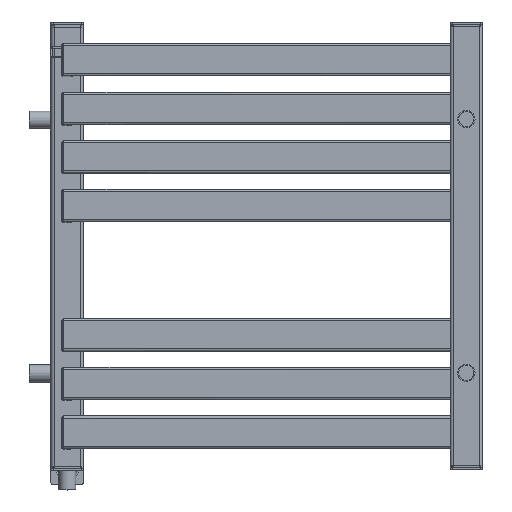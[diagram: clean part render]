
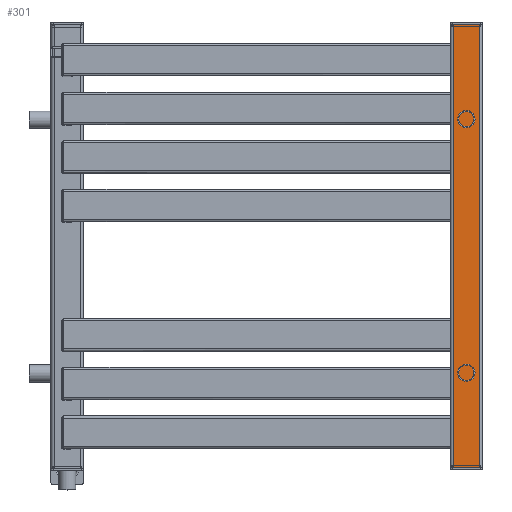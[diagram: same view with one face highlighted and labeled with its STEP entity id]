
A CAD part, top view. The second image highlights one B-rep face of the part: STEP entity #301.
In plain terms, the highlighted planar face has unit normal (0, 0, 1) as drawn and (1, 0, 0) by its records, which use the part's own axes.
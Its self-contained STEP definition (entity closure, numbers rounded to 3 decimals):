
#301 = ADVANCED_FACE( '', ( #659 ), #660, .T. );
#659 = FACE_OUTER_BOUND( '', #1118, .T. );
#660 = PLANE( '', #1119 );
#1118 = EDGE_LOOP( '', ( #1877, #1878, #1879, #1880 ) );
#1119 = AXIS2_PLACEMENT_3D( '', #1881, #1882, #1883 );
#1877 = ORIENTED_EDGE( '', *, *, #2772, .T. );
#1878 = ORIENTED_EDGE( '', *, *, #2834, .T. );
#1879 = ORIENTED_EDGE( '', *, *, #2835, .F. );
#1880 = ORIENTED_EDGE( '', *, *, #2836, .T. );
#1881 = CARTESIAN_POINT( '', ( 15., 411., -15. ) );
#1882 = DIRECTION( '', ( 1., 0., 0. ) );
#1883 = DIRECTION( '', ( 0., 0., -1. ) );
#2772 = EDGE_CURVE( '', #3373, #3371, #3374, .T. );
#2834 = EDGE_CURVE( '', #3371, #3465, #3466, .T. );
#2835 = EDGE_CURVE( '', #3467, #3465, #3468, .T. );
#2836 = EDGE_CURVE( '', #3467, #3373, #3469, .F. );
#3371 = VERTEX_POINT( '', #4167 );
#3373 = VERTEX_POINT( '', #4169 );
#3374 = LINE( '', #4170, #4171 );
#3465 = VERTEX_POINT( '', #4293 );
#3466 = LINE( '', #4294, #4295 );
#3467 = VERTEX_POINT( '', #4296 );
#3468 = LINE( '', #4297, #4298 );
#3469 = LINE( '', #4299, #4300 );
#4167 = CARTESIAN_POINT( '', ( 15., 411., 12. ) );
#4169 = CARTESIAN_POINT( '', ( 15., 411., -12. ) );
#4170 = CARTESIAN_POINT( '', ( 15., 411., -15. ) );
#4171 = VECTOR( '', #4912, 1000. );
#4293 = CARTESIAN_POINT( '', ( 15., 0., 12. ) );
#4294 = CARTESIAN_POINT( '', ( 15., 411., 12. ) );
#4295 = VECTOR( '', #4986, 1000. );
#4296 = CARTESIAN_POINT( '', ( 15., 0., -12. ) );
#4297 = CARTESIAN_POINT( '', ( 15., 0., -15. ) );
#4298 = VECTOR( '', #4987, 1000. );
#4299 = CARTESIAN_POINT( '', ( 15., 411., -12. ) );
#4300 = VECTOR( '', #4988, 1000. );
#4912 = DIRECTION( '', ( 0., 0., 1. ) );
#4986 = DIRECTION( '', ( 0., -1., 0. ) );
#4987 = DIRECTION( '', ( 0., 0., 1. ) );
#4988 = DIRECTION( '', ( 0., -1., 0. ) );
